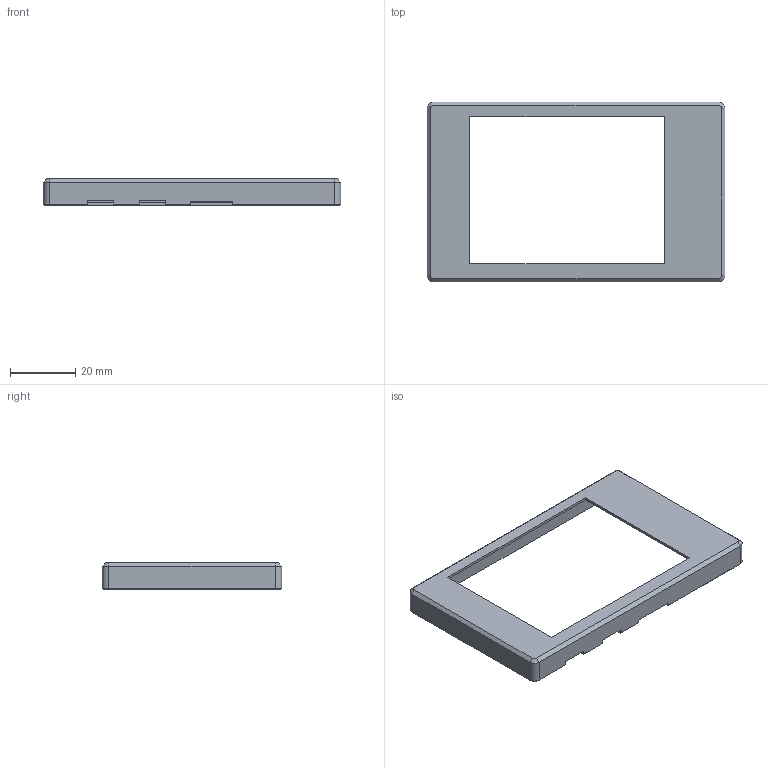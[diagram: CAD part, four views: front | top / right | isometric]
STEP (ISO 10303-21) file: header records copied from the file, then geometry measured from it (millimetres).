
FILE_DESCRIPTION(/* description */ (''),/* implementation_level */ '2;1');
FILE_NAME(/* name */ 'Front-self-tap.step',/* time_stamp */ '2023-12-18T21:36:35-08:00',/* author */ (''),/* organization */ (''),/* preprocessor_version */ 'ST-DEVELOPER v20',/* originating_system */ 'Autodesk Translation Framework v12.14.0.127',/* authorisation */ '');
FILE_SCHEMA (('AUTOMOTIVE_DESIGN { 1 0 10303 214 3 1 1 }'));
Length unit declared in the file: millimetre
Products named in the file (1): Front
Bounding box: 91 x 55 x 8.04 mm (x, y, z)
Volume: 6515.5 mm3; surface area: 8846.8 mm2
Topology: 1 solids, 1 shells, 117 faces, 313 edges, 202 vertices
Faces by surface type: plane 81, cylinder 24, cone 12
Full cylindrical faces by diameter (mm): 2.8 x4
Entity records: 3644 total; most frequent: CARTESIAN_POINT 633, ORIENTED_EDGE 626, DIRECTION 609, EDGE_CURVE 313, LINE 253, VECTOR 253, VERTEX_POINT 202, AXIS2_PLACEMENT_3D 178
